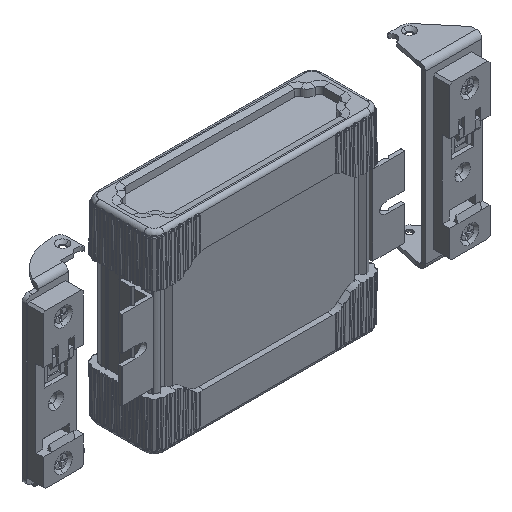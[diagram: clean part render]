
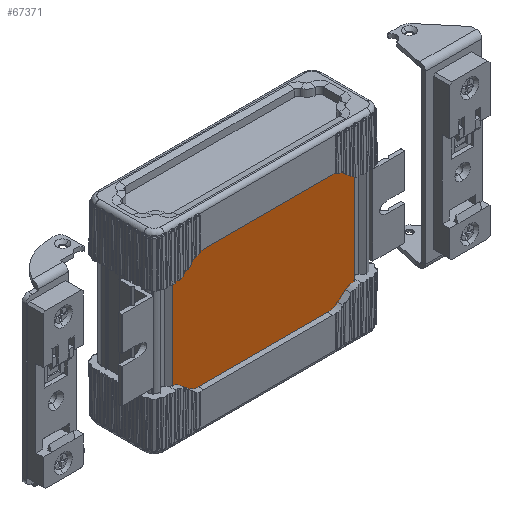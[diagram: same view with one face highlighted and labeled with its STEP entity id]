
A CAD part, isometric view. The second image highlights one B-rep face of the part: STEP entity #67371.
In plain terms, the highlighted planar face has unit normal (0, -1, 0).
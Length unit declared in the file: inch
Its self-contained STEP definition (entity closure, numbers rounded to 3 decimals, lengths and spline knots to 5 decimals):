
#2053 = VERTEX_POINT ( 'NONE', #18206 ) ;
#3508 = DIRECTION ( 'NONE',  ( 1., 0., 0. ) ) ;
#3893 = CARTESIAN_POINT ( 'NONE',  ( 1.77987, -0.57824, 1.58465 ) ) ;
#4588 = VECTOR ( 'NONE', #26461, 39.37008 ) ;
#6223 = EDGE_CURVE ( 'NONE', #64513, #2053, #27381, .T. ) ;
#10645 = AXIS2_PLACEMENT_3D ( 'NONE', #3893, #31713, #16965 ) ;
#11246 = DIRECTION ( 'NONE',  ( 0., 0., -1. ) ) ;
#16351 = EDGE_CURVE ( 'NONE', #38189, #2053, #21153, .T. ) ;
#16965 = DIRECTION ( 'NONE',  ( -1., 0., 0. ) ) ;
#18206 = CARTESIAN_POINT ( 'NONE',  ( 1.77987, -0.57824, -1.58465 ) ) ;
#20737 = FACE_OUTER_BOUND ( 'NONE', #71552, .T. ) ;
#21153 = LINE ( 'NONE', #37640, #43887 ) ;
#22428 = ORIENTED_EDGE ( 'NONE', *, *, #56083, .F. ) ;
#26456 = VERTEX_POINT ( 'NONE', #68437 ) ;
#26461 = DIRECTION ( 'NONE',  ( 0., 0., -1. ) ) ;
#26647 = DIRECTION ( 'NONE',  ( 1., 0., 0. ) ) ;
#27381 = LINE ( 'NONE', #61495, #41162 ) ;
#30572 = EDGE_CURVE ( 'NONE', #26456, #38189, #31931, .T. ) ;
#31713 = DIRECTION ( 'NONE',  ( 0., 1., 0. ) ) ;
#31931 = LINE ( 'NONE', #71932, #4588 ) ;
#34599 = ORIENTED_EDGE ( 'NONE', *, *, #30572, .T. ) ;
#36806 = CARTESIAN_POINT ( 'NONE',  ( 1.77987, -0.57824, 1.58465 ) ) ;
#37640 = CARTESIAN_POINT ( 'NONE',  ( 1.77987, -0.57824, -1.58465 ) ) ;
#37848 = VECTOR ( 'NONE', #3508, 39.37008 ) ;
#38189 = VERTEX_POINT ( 'NONE', #69615 ) ;
#41162 = VECTOR ( 'NONE', #11246, 39.37008 ) ;
#43887 = VECTOR ( 'NONE', #26647, 39.37008 ) ;
#44019 = ORIENTED_EDGE ( 'NONE', *, *, #6223, .F. ) ;
#48641 = LINE ( 'NONE', #36806, #37848 ) ;
#51740 = CARTESIAN_POINT ( 'NONE',  ( 1.77987, -0.57824, 1.58465 ) ) ;
#52935 = ORIENTED_EDGE ( 'NONE', *, *, #16351, .T. ) ;
#56083 = EDGE_CURVE ( 'NONE', #26456, #64513, #48641, .T. ) ;
#61495 = CARTESIAN_POINT ( 'NONE',  ( 1.77987, -0.57824, 1.58465 ) ) ;
#64513 = VERTEX_POINT ( 'NONE', #51740 ) ;
#67371 = ADVANCED_FACE ( 'NONE', ( #20737 ), #70971, .F. ) ;
#68437 = CARTESIAN_POINT ( 'NONE',  ( -1.77987, -0.57824, 1.58465 ) ) ;
#69615 = CARTESIAN_POINT ( 'NONE',  ( -1.77987, -0.57824, -1.58465 ) ) ;
#70971 = PLANE ( 'NONE',  #10645 ) ;
#71552 = EDGE_LOOP ( 'NONE', ( #52935, #44019, #22428, #34599 ) ) ;
#71932 = CARTESIAN_POINT ( 'NONE',  ( -1.77987, -0.57824, 1.58465 ) ) ;
